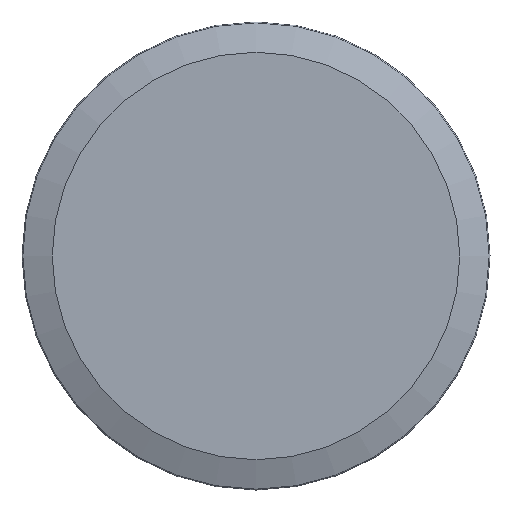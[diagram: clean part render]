
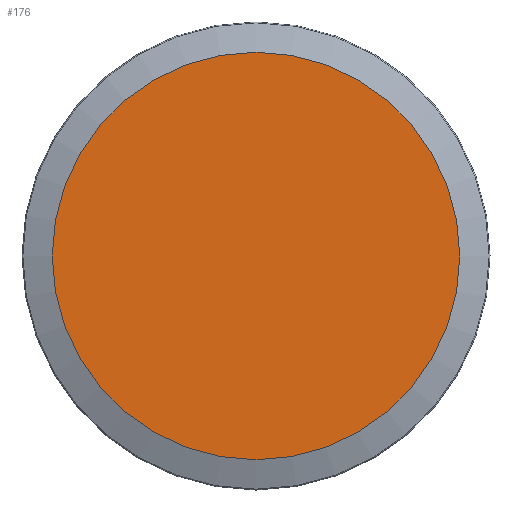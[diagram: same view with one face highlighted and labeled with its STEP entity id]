
A CAD part, left-side view. The second image highlights one B-rep face of the part: STEP entity #176.
In plain terms, the highlighted planar face has unit normal (-1, 0, 0).
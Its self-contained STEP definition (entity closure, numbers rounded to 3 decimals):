
#40=FACE_OUTER_BOUND('',#52,.T.);
#52=EDGE_LOOP('',(#145));
#70=CIRCLE('',#226,101.639);
#85=VERTEX_POINT('',#336);
#106=EDGE_CURVE('',#85,#85,#70,.T.);
#145=ORIENTED_EDGE('',*,*,#106,.F.);
#154=PLANE('',#227);
#176=ADVANCED_FACE('',(#40),#154,.T.);
#226=AXIS2_PLACEMENT_3D('',#338,#286,#287);
#227=AXIS2_PLACEMENT_3D('',#339,#288,#289);
#286=DIRECTION('center_axis',(1.,0.,0.));
#287=DIRECTION('ref_axis',(0.,0.,1.));
#288=DIRECTION('center_axis',(-1.,0.,0.));
#289=DIRECTION('ref_axis',(0.,0.,-1.));
#336=CARTESIAN_POINT('',(-7.741,-0.327,-101.639));
#338=CARTESIAN_POINT('Origin',(-7.741,-0.327,0.));
#339=CARTESIAN_POINT('Origin',(-7.741,-101.966,0.));
